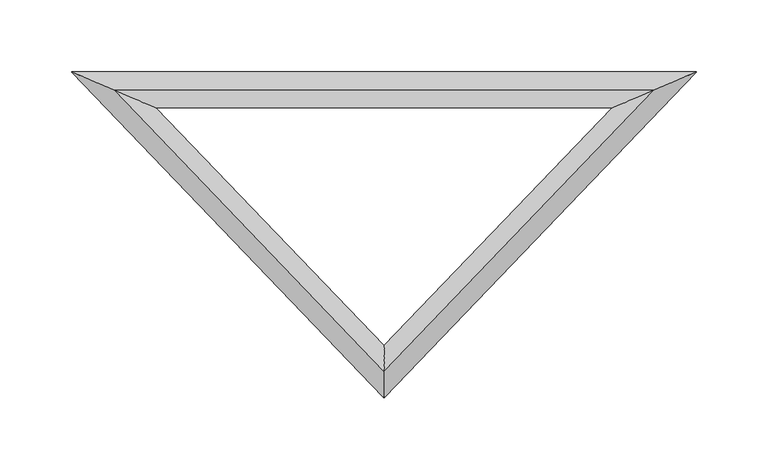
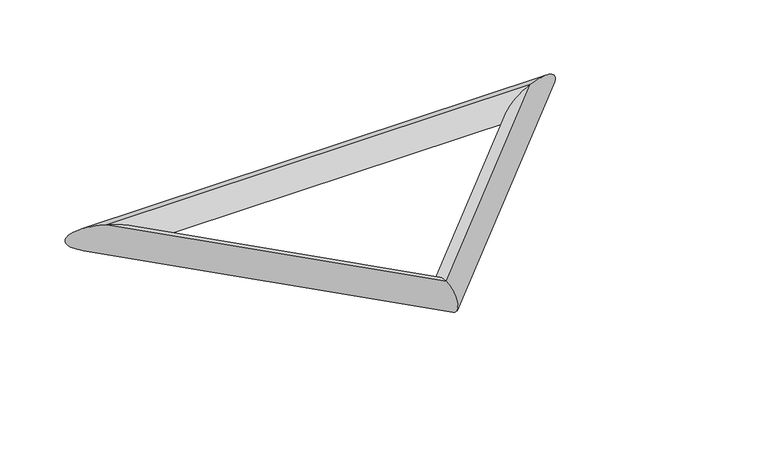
"""IFC4 building model written with IfcOpenShell, lengths in millimetres: plate geometry, ZZK PilotoBIM : ZZK PilotoBIM."""

from ifc_helpers import new_model, si_unit, frame, origin, place, context, project, spatial, ellipse_curve, source, transform, mapped, element, save
from ifc_brep_helpers import cylinder_surface, advanced_brep


def plate_e07f869c(model_context):
    return source(origin(), model_context, "Body", "AdvancedBrep", [
        advanced_brep(
        [(6284.0287169, 5145.4225606, 12.5), (6284.0287169, 5145.4225606, -12.5), (5907.9712831, 5145.4225606, -12.5), (5907.9712831, 5145.4225606, 12.5), (6096.0, 4949.1548787, -12.5), (6096.0, 4949.1548787, 12.5)],
        [
            (0, 1, ellipse_curve(frame((6284.0287169, 5145.4225606, 0.0), z_axis=(-0.39256331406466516, 0.9197249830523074, 0.0), x_axis=(0.9197249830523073, 0.3925633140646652, 0.0)), 31.8419973, 12.5)),
            (1, 2),
            (2, 3, ellipse_curve(frame((5907.9712831, 5145.4225606, 0.0), z_axis=(0.3925633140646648, 0.9197249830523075, 0.0), x_axis=(0.9197249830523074, -0.3925633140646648, 0.0)), 31.8419973, 12.5)),
            (3, 0),
            (1, 0, ellipse_curve(frame((6284.0287169, 5145.4225606, 0.0), z_axis=(-0.39256331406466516, 0.9197249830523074, 0.0), x_axis=(0.9197249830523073, 0.3925633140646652, 0.0)), 31.8419973, 12.5)),
            (3, 2, ellipse_curve(frame((5907.9712831, 5145.4225606, 0.0), z_axis=(0.3925633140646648, 0.9197249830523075, 0.0), x_axis=(0.9197249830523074, -0.3925633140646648, 0.0)), 31.8419973, 12.5)),
            (2, 4),
            (4, 5, ellipse_curve(frame((6096.0, 4949.1548787, 0.0), z_axis=(-1.0, 0.0, 0.0), x_axis=(0.0, 1.0, 0.0)), 18.0691171, 12.5)),
            (5, 3),
            (5, 4, ellipse_curve(frame((6096.0, 4949.1548787, 0.0), z_axis=(-1.0, 0.0, 0.0), x_axis=(0.0, 1.0, 0.0)), 18.0691171, 12.5)),
            (4, 1),
            (0, 5),
        ],
        [
            cylinder_surface(frame((6284.0287169, 5145.4225606, 0.0), z_axis=(1.0, 0.0, 0.0), x_axis=(0.0, 1.0, 0.0)), 12.5),
            cylinder_surface(frame((5907.9712831, 5145.4225606, 0.0), z_axis=(-0.6917880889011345, 0.7221005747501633, 0.0), x_axis=(-0.7221005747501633, -0.6917880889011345, 0.0)), 12.5),
            cylinder_surface(frame((6096.0, 4949.1548787, 0.0), z_axis=(-0.6917880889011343, -0.7221005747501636, 0.0), x_axis=(0.7221005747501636, -0.6917880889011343, 0.0)), 12.5),
        ],
        [
            (0, [[1, 2, 3, 4]]),
            (0, [[5, -4, 6, -2]]),
            (1, [[-3, 7, 8, 9]]),
            (1, [[-6, -9, 10, -7]]),
            (2, [[-8, 11, -1, 12]]),
            (2, [[-10, -12, -5, -11]]),
        ],
    ),
    ])


if __name__ == "__main__":
    model = new_model("IFC4")
    model_context = context("Model", 3, world=origin())
    ifc_project = project(units=[si_unit("LENGTHUNIT", "METRE", prefix="MILLI")], contexts=[model_context])
    site = spatial("IfcSite", under=ifc_project)
    building = spatial("IfcBuilding", under=site)
    placement = place(None, origin())
    plate_shape = plate_e07f869c(model_context)
    element("IfcPlate", 1, ObjectType="ZZK PilotoBIM : ZZK PilotoBIM", at=placement, inside=building, context=model_context, shape_type="MappedRepresentation", body=[
        mapped(plate_shape, transform((0.0, 0.0, 0.0), x_axis=(1.0, 0.0, 0.0), y_axis=(0.0, 1.0, 0.0), z_axis=(0.0, 0.0, 1.0))),
    ])
    save(model, "model.ifc")
